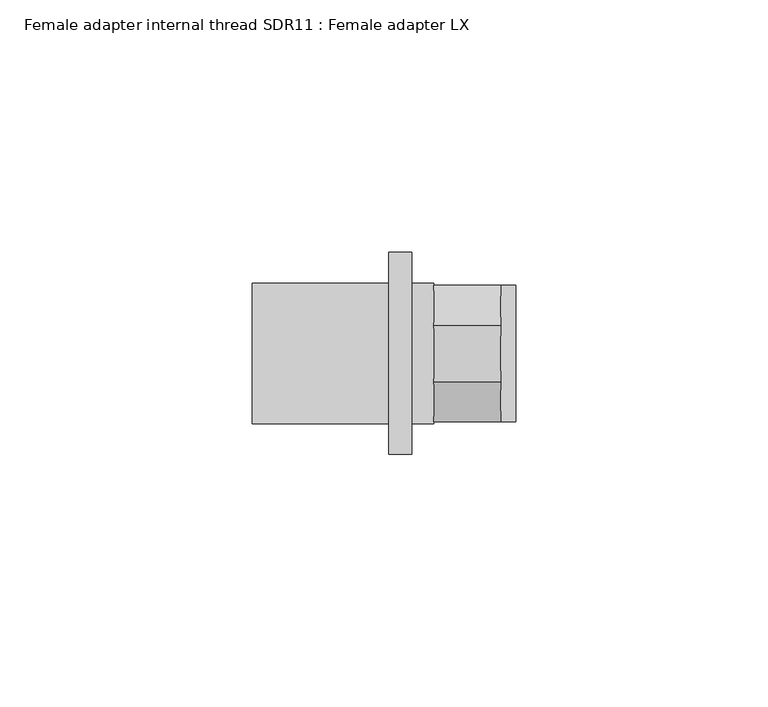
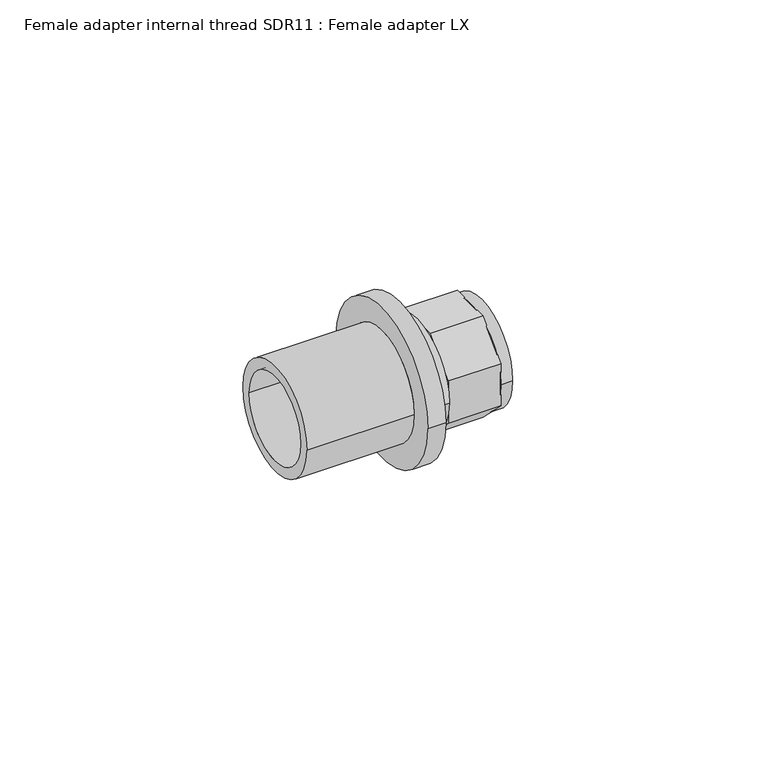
"""IFC4 building model written with IfcOpenShell, lengths in millimetres: pipe fitting geometry, Female adapter internal thread SDR11 : Female adapter LX."""

from ifc_helpers import new_model, si_unit, point, frame, origin, origin_2d, place, context, project, spatial, polyline, circle_curve, trimmed, segment, composite_curve, outline, extrude, source, transform, mapped, element, save
from ifc_brep_helpers import plane_surface, cylinder_surface, revolved_surface, advanced_brep


def female_adapter_internal_thread_sdr11_female_adapter_lx_76b21a85(model_context):
    return source(origin(), model_context, "Body", "SolidModel", [
        extrude(outline(composite_curve([segment(trimmed(circle_curve(origin_2d(), 13.5), [point((13.5, 0.0))], [point((-13.5, 0.0))], False, "CARTESIAN"), True, "CONTINUOUS"), segment(trimmed(circle_curve(origin_2d(), 13.5), [point((-13.5, 0.0))], [point((13.5, 0.0))], False, "CARTESIAN"), True, "CONTINUOUS")], self_intersect=False), holes=[composite_curve([segment(trimmed(circle_curve(origin_2d(), 9.35), [point((9.35, 0.0))], [point((-9.35, 0.0))], True, "CARTESIAN"), True, "CONTINUOUS"), segment(trimmed(circle_curve(origin_2d(), 9.35), [point((-9.35, 0.0))], [point((9.35, 0.0))], True, "CARTESIAN"), True, "CONTINUOUS")], self_intersect=False)]), frame((13.3, 0.0, 0.0), z_axis=(1.0, 0.0, 0.0), x_axis=(0.0, 1.0, 0.0)), (0.0, 0.0, 1.0), 2.9),
        advanced_brep(
        [(-8.9, 13.95, 0.0), (-8.9, -13.95, 0.0), (-35.9, -13.95, 0.0), (-35.9, 13.95, 0.0), (-4.4, 20.0, 0.0), (-4.4, -20.0, 0.0), (-8.9, -20.0, 0.0), (-8.9, 20.0, 0.0), (0.0, 13.95, 0.0), (0.0, -13.95, 0.0), (-4.4, -13.95, 0.0), (-4.4, 13.95, 0.0), (-35.9, 11.2, 0.0), (-35.9, -11.2, 0.0), (0.0, -11.2, 0.0), (0.0, 11.2, 0.0)],
        [
            (0, 1, circle_curve(frame((-8.9, 0.0, 0.0), z_axis=(-1.0, 0.0, 0.0), x_axis=(0.0, -1.0, 0.0)), 13.95)),
            (1, 2),
            (2, 3, circle_curve(frame((-35.9, 0.0, 0.0), z_axis=(1.0, 0.0, 0.0), x_axis=(0.0, -1.0, 0.0)), 13.95)),
            (3, 0),
            (4, 5, circle_curve(frame((-4.4, 0.0, 0.0), z_axis=(-1.0, 0.0, 0.0), x_axis=(0.0, -1.0, 0.0)), 20.0)),
            (5, 6),
            (6, 7, circle_curve(frame((-8.9, 0.0, 0.0), z_axis=(1.0, 0.0, 0.0), x_axis=(0.0, -1.0, 0.0)), 20.0)),
            (7, 4),
            (8, 9, circle_curve(frame((0.0, 0.0, 0.0), z_axis=(-1.0, 0.0, 0.0), x_axis=(0.0, -1.0, 0.0)), 13.95)),
            (9, 10),
            (10, 11, circle_curve(frame((-4.4, 0.0, 0.0), z_axis=(1.0, 0.0, 0.0), x_axis=(0.0, -1.0, 0.0)), 13.95)),
            (11, 8),
            (12, 13, circle_curve(frame((-35.9, 0.0, 0.0), z_axis=(-1.0, 0.0, 0.0), x_axis=(0.0, -1.0, 0.0)), 11.2)),
            (13, 14),
            (14, 15, circle_curve(frame((0.0, 0.0, 0.0), z_axis=(1.0, 0.0, 0.0), x_axis=(0.0, -1.0, 0.0)), 11.2)),
            (15, 12),
            (2, 3, circle_curve(frame((-35.9, 0.0, 0.0), z_axis=(-1.0, 0.0, 0.0), x_axis=(0.0, 1.0, 0.0)), 13.95)),
            (12, 13, circle_curve(frame((-35.9, 0.0, 0.0), z_axis=(1.0, 0.0, 0.0), x_axis=(0.0, 1.0, 0.0)), 11.2)),
            (1, 0, circle_curve(frame((-8.9, 0.0, 0.0), z_axis=(-1.0, 0.0, 0.0), x_axis=(0.0, 1.0, 0.0)), 13.95)),
            (6, 7, circle_curve(frame((-8.9, 0.0, 0.0), z_axis=(-1.0, 0.0, 0.0), x_axis=(0.0, 1.0, 0.0)), 20.0)),
            (5, 4, circle_curve(frame((-4.4, 0.0, 0.0), z_axis=(-1.0, 0.0, 0.0), x_axis=(0.0, 1.0, 0.0)), 20.0)),
            (10, 11, circle_curve(frame((-4.4, 0.0, 0.0), z_axis=(-1.0, 0.0, 0.0), x_axis=(0.0, 1.0, 0.0)), 13.95)),
            (9, 8, circle_curve(frame((0.0, 0.0, 0.0), z_axis=(-1.0, 0.0, 0.0), x_axis=(0.0, 1.0, 0.0)), 13.95)),
            (14, 15, circle_curve(frame((0.0, 0.0, 0.0), z_axis=(-1.0, 0.0, 0.0), x_axis=(0.0, 1.0, 0.0)), 11.2)),
        ],
        [
            cylinder_surface(frame((0.0, 0.0, 0.0), z_axis=(1.0, 0.0, 0.0), x_axis=(0.0, -1.0, 0.0)), 13.95),
            cylinder_surface(frame((0.0, 0.0, 0.0), z_axis=(1.0, 0.0, 0.0), x_axis=(0.0, -1.0, 0.0)), 20.0),
            revolved_surface(polyline([(0.0, -11.2, 0.0), (-35.9, -11.2, 0.0)]), (0.0, 0.0, 0.0), (1.0, 0.0, 0.0)),
            plane_surface(frame((-35.9, 0.0, 0.0), z_axis=(-1.0, 0.0, 0.0), x_axis=(0.0, 1.0, 0.0))),
            cylinder_surface(frame((0.0, 0.0, 0.0), z_axis=(1.0, 0.0, 0.0), x_axis=(0.0, 1.0, 0.0)), 13.95),
            plane_surface(frame((-8.9, 0.0, 0.0), z_axis=(-1.0, 0.0, 0.0), x_axis=(0.0, 1.0, 0.0))),
            cylinder_surface(frame((0.0, 0.0, 0.0), z_axis=(1.0, 0.0, 0.0), x_axis=(0.0, 1.0, 0.0)), 20.0),
            plane_surface(frame((-4.4, 0.0, 0.0), z_axis=(1.0, 0.0, 0.0), x_axis=(0.0, 1.0, 0.0))),
            plane_surface(frame((0.0, 0.0, 0.0), z_axis=(1.0, 0.0, 0.0), x_axis=(0.0, 1.0, 0.0))),
            revolved_surface(polyline([(0.0, 11.2, 0.0), (-35.9, 11.2, 0.0)]), (0.0, 0.0, 0.0), (1.0, 0.0, 0.0)),
        ],
        [
            (0, [[1, 2, 3, 4]]),
            (1, [[5, 6, 7, 8]]),
            (0, [[9, 10, 11, 12]]),
            (2, [[13, 14, 15, 16]]),
            (3, [[17, -3], [18, -13]]),
            (4, [[19, -4, -17, -2]]),
            (5, [[20, -7], [-19, -1]]),
            (6, [[21, -8, -20, -6]]),
            (7, [[-21, -5], [22, -11]]),
            (4, [[23, -12, -22, -10]]),
            (8, [[-23, -9], [24, -15]]),
            (9, [[-18, -16, -24, -14]]),
        ],
    ),
        extrude(outline(polyline([(-13.5, 5.5918831), (-5.5918831, 13.5), (5.5918831, 13.5), (13.5, 5.5918831), (13.5, -5.5918831), (5.5918831, -13.5), (-5.5918831, -13.5), (-13.5, -5.5918831), (-13.5, 5.5918831)])), frame((0.0, 0.0, 0.0), z_axis=(1.0, 0.0, 0.0), x_axis=(0.0, 1.0, 0.0)), (0.0, 0.0, 1.0), 13.3),
    ])


if __name__ == "__main__":
    model = new_model("IFC4")
    model_context = context("Model", 3, world=origin())
    ifc_project = project(units=[si_unit("LENGTHUNIT", "METRE", prefix="MILLI")], contexts=[model_context])
    site = spatial("IfcSite", under=ifc_project)
    building = spatial("IfcBuilding", under=site)
    placement = place(None, origin())
    female_adapter_internal_thread_sdr11_female_adapter_lx_shape = female_adapter_internal_thread_sdr11_female_adapter_lx_76b21a85(model_context)
    element("IfcPipeFitting", 1, ObjectType="Female adapter internal thread SDR11 : Female adapter LX", at=placement, inside=building, context=model_context, shape_type="MappedRepresentation", body=[
        mapped(female_adapter_internal_thread_sdr11_female_adapter_lx_shape, transform((0.0, 0.0, 0.0), x_axis=(1.0, 0.0, 0.0), y_axis=(0.0, 1.0, 0.0), z_axis=(0.0, 0.0, 1.0))),
    ])
    save(model, "model.ifc")
